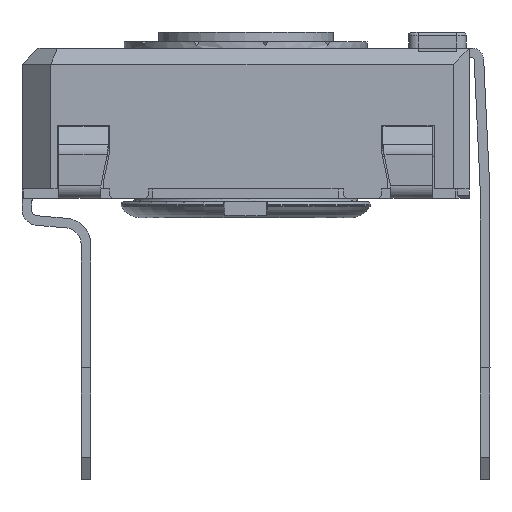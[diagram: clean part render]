
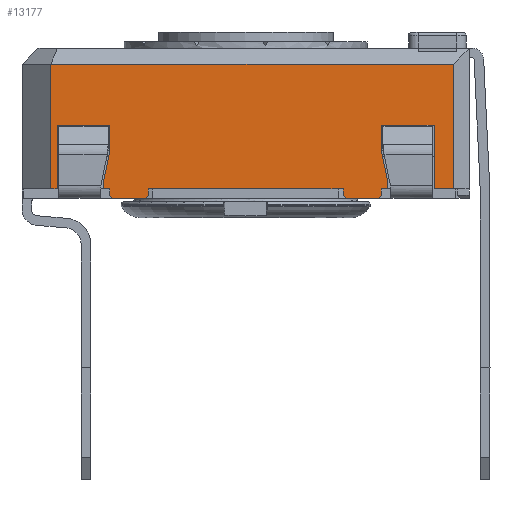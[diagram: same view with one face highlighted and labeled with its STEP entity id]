
A CAD part, left-side view. The second image highlights one B-rep face of the part: STEP entity #13177.
In plain terms, the highlighted planar face has unit normal (-1, 0, 0).
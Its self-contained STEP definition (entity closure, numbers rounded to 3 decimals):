
#453=PLANE('',#14066);
#1060=FACE_OUTER_BOUND('',#1746,.T.);
#1746=EDGE_LOOP('',(#10880,#10881,#10882,#10883,#10884,#10885,#10886,#10887,
#10888,#10889,#10890,#10891,#10892,#10893,#10894,#10895,#10896,#10897,#10898,
#10899,#10900,#10901,#10902,#10903,#10904,#10905,#10906,#10907));
#2746=LINE('',#20171,#4257);
#2752=LINE('',#20183,#4263);
#2755=LINE('',#20190,#4266);
#2760=LINE('',#20199,#4271);
#2780=LINE('',#20240,#4291);
#2794=LINE('',#20266,#4305);
#2798=LINE('',#20273,#4309);
#2813=LINE('',#20302,#4324);
#2816=LINE('',#20308,#4327);
#2821=LINE('',#20318,#4332);
#2824=LINE('',#20324,#4335);
#2827=LINE('',#20330,#4338);
#2845=LINE('',#20365,#4356);
#2857=LINE('',#20387,#4368);
#2860=LINE('',#20393,#4371);
#2897=LINE('',#20527,#4408);
#2900=LINE('',#20533,#4411);
#2926=LINE('',#20580,#4437);
#2931=LINE('',#20590,#4442);
#2933=LINE('',#20593,#4444);
#3058=LINE('',#20904,#4569);
#3060=LINE('',#20909,#4571);
#3063=LINE('',#20913,#4574);
#3065=LINE('',#20917,#4576);
#3068=LINE('',#20925,#4579);
#3069=LINE('',#20927,#4580);
#3070=LINE('',#20928,#4581);
#3071=LINE('',#20929,#4582);
#4257=VECTOR('',#16149,10.);
#4263=VECTOR('',#16157,10.);
#4266=VECTOR('',#16162,10.);
#4271=VECTOR('',#16169,10.);
#4291=VECTOR('',#16203,10.);
#4305=VECTOR('',#16217,10.);
#4309=VECTOR('',#16221,10.);
#4324=VECTOR('',#16248,10.);
#4327=VECTOR('',#16253,10.);
#4332=VECTOR('',#16260,10.);
#4335=VECTOR('',#16265,10.);
#4338=VECTOR('',#16270,10.);
#4356=VECTOR('',#16290,10.);
#4368=VECTOR('',#16304,10.);
#4371=VECTOR('',#16309,10.);
#4408=VECTOR('',#16390,10.);
#4411=VECTOR('',#16395,10.);
#4437=VECTOR('',#16423,10.);
#4442=VECTOR('',#16430,10.);
#4444=VECTOR('',#16434,10.);
#4569=VECTOR('',#16725,10.);
#4571=VECTOR('',#16729,10.);
#4574=VECTOR('',#16734,10.);
#4576=VECTOR('',#16740,10.);
#4579=VECTOR('',#16751,10.);
#4580=VECTOR('',#16752,10.);
#4581=VECTOR('',#16753,10.);
#4582=VECTOR('',#16754,10.);
#6012=VERTEX_POINT('',#20168);
#6013=VERTEX_POINT('',#20170);
#6017=VERTEX_POINT('',#20180);
#6019=VERTEX_POINT('',#20186);
#6021=VERTEX_POINT('',#20189);
#6024=VERTEX_POINT('',#20197);
#6049=VERTEX_POINT('',#20263);
#6050=VERTEX_POINT('',#20265);
#6052=VERTEX_POINT('',#20270);
#6053=VERTEX_POINT('',#20272);
#6060=VERTEX_POINT('',#20299);
#6062=VERTEX_POINT('',#20305);
#6066=VERTEX_POINT('',#20315);
#6068=VERTEX_POINT('',#20321);
#6071=VERTEX_POINT('',#20328);
#6087=VERTEX_POINT('',#20363);
#6096=VERTEX_POINT('',#20385);
#6098=VERTEX_POINT('',#20391);
#6125=VERTEX_POINT('',#20525);
#6126=VERTEX_POINT('',#20530);
#6146=VERTEX_POINT('',#20577);
#6150=VERTEX_POINT('',#20587);
#6224=VERTEX_POINT('',#20901);
#6225=VERTEX_POINT('',#20903);
#6226=VERTEX_POINT('',#20907);
#6227=VERTEX_POINT('',#20908);
#6228=VERTEX_POINT('',#20924);
#6229=VERTEX_POINT('',#20926);
#7548=EDGE_CURVE('',#6013,#6012,#2746,.T.);
#7554=EDGE_CURVE('',#6012,#6017,#2752,.T.);
#7557=EDGE_CURVE('',#6021,#6019,#2755,.T.);
#7562=EDGE_CURVE('',#6024,#6019,#2760,.T.);
#7582=EDGE_CURVE('',#6017,#6021,#2780,.T.);
#7596=EDGE_CURVE('',#6050,#6049,#2794,.T.);
#7600=EDGE_CURVE('',#6053,#6052,#2798,.T.);
#7616=EDGE_CURVE('',#6049,#6060,#2813,.T.);
#7619=EDGE_CURVE('',#6060,#6062,#2816,.T.);
#7624=EDGE_CURVE('',#6062,#6066,#2821,.T.);
#7627=EDGE_CURVE('',#6066,#6068,#2824,.T.);
#7630=EDGE_CURVE('',#6068,#6071,#2827,.T.);
#7648=EDGE_CURVE('',#6071,#6087,#2845,.T.);
#7660=EDGE_CURVE('',#6096,#6087,#2857,.T.);
#7663=EDGE_CURVE('',#6098,#6096,#2860,.T.);
#7712=EDGE_CURVE('',#6125,#6098,#2897,.T.);
#7715=EDGE_CURVE('',#6125,#6126,#2900,.T.);
#7741=EDGE_CURVE('',#6126,#6146,#2926,.T.);
#7746=EDGE_CURVE('',#6146,#6150,#2931,.T.);
#7748=EDGE_CURVE('',#6150,#6013,#2933,.T.);
#7889=EDGE_CURVE('',#6224,#6225,#3058,.T.);
#7891=EDGE_CURVE('',#6226,#6227,#3060,.T.);
#7894=EDGE_CURVE('',#6050,#6224,#3063,.T.);
#7896=EDGE_CURVE('',#6052,#6227,#3065,.T.);
#7899=EDGE_CURVE('',#6024,#6228,#3068,.T.);
#7900=EDGE_CURVE('',#6229,#6228,#3069,.T.);
#7901=EDGE_CURVE('',#6053,#6229,#3070,.T.);
#7902=EDGE_CURVE('',#6226,#6225,#3071,.T.);
#10880=ORIENTED_EDGE('',*,*,#7554,.T.);
#10881=ORIENTED_EDGE('',*,*,#7582,.T.);
#10882=ORIENTED_EDGE('',*,*,#7557,.T.);
#10883=ORIENTED_EDGE('',*,*,#7562,.F.);
#10884=ORIENTED_EDGE('',*,*,#7899,.T.);
#10885=ORIENTED_EDGE('',*,*,#7900,.F.);
#10886=ORIENTED_EDGE('',*,*,#7901,.F.);
#10887=ORIENTED_EDGE('',*,*,#7600,.T.);
#10888=ORIENTED_EDGE('',*,*,#7896,.T.);
#10889=ORIENTED_EDGE('',*,*,#7891,.F.);
#10890=ORIENTED_EDGE('',*,*,#7902,.T.);
#10891=ORIENTED_EDGE('',*,*,#7889,.F.);
#10892=ORIENTED_EDGE('',*,*,#7894,.F.);
#10893=ORIENTED_EDGE('',*,*,#7596,.T.);
#10894=ORIENTED_EDGE('',*,*,#7616,.T.);
#10895=ORIENTED_EDGE('',*,*,#7619,.T.);
#10896=ORIENTED_EDGE('',*,*,#7624,.T.);
#10897=ORIENTED_EDGE('',*,*,#7627,.T.);
#10898=ORIENTED_EDGE('',*,*,#7630,.T.);
#10899=ORIENTED_EDGE('',*,*,#7648,.T.);
#10900=ORIENTED_EDGE('',*,*,#7660,.F.);
#10901=ORIENTED_EDGE('',*,*,#7663,.F.);
#10902=ORIENTED_EDGE('',*,*,#7712,.F.);
#10903=ORIENTED_EDGE('',*,*,#7715,.T.);
#10904=ORIENTED_EDGE('',*,*,#7741,.T.);
#10905=ORIENTED_EDGE('',*,*,#7746,.T.);
#10906=ORIENTED_EDGE('',*,*,#7748,.T.);
#10907=ORIENTED_EDGE('',*,*,#7548,.T.);
#13177=ADVANCED_FACE('',(#1060),#453,.T.);
#14066=AXIS2_PLACEMENT_3D('',#20923,#16749,#16750);
#16149=DIRECTION('',(0.,0.208,-0.978));
#16157=DIRECTION('',(0.,0.,-1.));
#16162=DIRECTION('',(0.,0.,-1.));
#16169=DIRECTION('',(0.,0.707,0.707));
#16203=DIRECTION('',(0.,-1.,0.));
#16217=DIRECTION('',(0.,-1.,0.));
#16221=DIRECTION('',(0.,-1.,0.));
#16248=DIRECTION('',(0.,0.,1.));
#16253=DIRECTION('',(0.,0.208,0.978));
#16260=DIRECTION('',(0.,0.,1.));
#16265=DIRECTION('',(0.,-1.,0.));
#16270=DIRECTION('',(0.,0.,-1.));
#16290=DIRECTION('',(0.,-1.,0.));
#16304=DIRECTION('',(0.,0.,-1.));
#16309=DIRECTION('',(0.,-1.,0.));
#16390=DIRECTION('',(0.,0.,1.));
#16395=DIRECTION('',(0.,-1.,0.));
#16423=DIRECTION('',(0.,0.,1.));
#16430=DIRECTION('',(0.,-1.,0.));
#16434=DIRECTION('',(0.,0.,-1.));
#16725=DIRECTION('',(0.,0.707,-0.707));
#16729=DIRECTION('',(0.,0.707,0.707));
#16734=DIRECTION('',(0.,0.,-1.));
#16740=DIRECTION('',(0.,0.,-1.));
#16749=DIRECTION('center_axis',(-1.,0.,0.));
#16750=DIRECTION('ref_axis',(0.,0.,1.));
#16751=DIRECTION('',(0.,-1.,0.));
#16752=DIRECTION('',(0.,0.707,-0.707));
#16753=DIRECTION('',(0.,0.,-1.));
#16754=DIRECTION('',(0.,-1.,0.));
#20168=CARTESIAN_POINT('',(-14.467,1.552,0.235));
#20170=CARTESIAN_POINT('',(-14.467,1.352,1.176));
#20171=CARTESIAN_POINT('',(-14.467,1.228,1.757));
#20180=CARTESIAN_POINT('',(-14.467,1.552,0.));
#20183=CARTESIAN_POINT('',(-14.467,1.552,0.));
#20186=CARTESIAN_POINT('',(-14.467,1.352,-0.2));
#20189=CARTESIAN_POINT('',(-14.467,1.352,0.));
#20190=CARTESIAN_POINT('',(-14.467,1.352,0.));
#20197=CARTESIAN_POINT('',(-14.467,1.252,-0.3));
#20199=CARTESIAN_POINT('',(-14.467,-1.436,-2.988));
#20240=CARTESIAN_POINT('',(-14.467,4.102,0.));
#20263=CARTESIAN_POINT('',(-14.467,-7.348,0.));
#20265=CARTESIAN_POINT('',(-14.467,-7.148,0.));
#20266=CARTESIAN_POINT('',(-14.467,4.102,0.));
#20270=CARTESIAN_POINT('',(-14.467,-5.948,0.));
#20272=CARTESIAN_POINT('',(-14.467,0.152,0.));
#20273=CARTESIAN_POINT('',(-14.467,4.102,0.));
#20299=CARTESIAN_POINT('',(-14.467,-7.348,0.235));
#20302=CARTESIAN_POINT('',(-14.467,-7.348,0.118));
#20305=CARTESIAN_POINT('',(-14.467,-7.148,1.176));
#20308=CARTESIAN_POINT('',(-14.467,-7.453,-0.254));
#20315=CARTESIAN_POINT('',(-14.467,-7.148,2.));
#20318=CARTESIAN_POINT('',(-14.467,-7.148,0.588));
#20321=CARTESIAN_POINT('',(-14.467,-8.798,2.));
#20324=CARTESIAN_POINT('',(-14.467,-8.523,2.));
#20328=CARTESIAN_POINT('',(-14.467,-8.798,0.));
#20330=CARTESIAN_POINT('',(-14.467,-8.798,0.));
#20363=CARTESIAN_POINT('',(-14.467,-9.398,0.));
#20365=CARTESIAN_POINT('',(-14.467,-9.595,0.));
#20385=CARTESIAN_POINT('',(-14.467,-9.398,3.9));
#20387=CARTESIAN_POINT('',(-14.467,-9.398,0.));
#20391=CARTESIAN_POINT('',(-14.467,3.202,3.9));
#20393=CARTESIAN_POINT('',(-14.467,-6.398,3.9));
#20525=CARTESIAN_POINT('',(-14.467,3.202,0.));
#20527=CARTESIAN_POINT('',(-14.467,3.202,0.));
#20530=CARTESIAN_POINT('',(-14.467,3.002,0.));
#20533=CARTESIAN_POINT('',(-14.467,-2.985,0.));
#20577=CARTESIAN_POINT('',(-14.467,3.002,2.));
#20580=CARTESIAN_POINT('',(-14.467,3.002,0.));
#20587=CARTESIAN_POINT('',(-14.467,1.352,2.));
#20590=CARTESIAN_POINT('',(-14.467,-3.448,2.));
#20593=CARTESIAN_POINT('',(-14.467,1.352,1.));
#20901=CARTESIAN_POINT('',(-14.467,-7.148,-0.2));
#20903=CARTESIAN_POINT('',(-14.467,-7.048,-0.3));
#20904=CARTESIAN_POINT('',(-14.467,-7.861,0.513));
#20907=CARTESIAN_POINT('',(-14.467,-6.048,-0.3));
#20908=CARTESIAN_POINT('',(-14.467,-5.948,-0.2));
#20909=CARTESIAN_POINT('',(-14.467,-6.911,-1.163));
#20913=CARTESIAN_POINT('',(-14.467,-7.148,0.));
#20917=CARTESIAN_POINT('',(-14.467,-5.948,0.));
#20923=CARTESIAN_POINT('Origin',(-14.467,-9.898,0.));
#20924=CARTESIAN_POINT('',(-14.467,0.252,-0.3));
#20925=CARTESIAN_POINT('',(-14.467,0.152,-0.3));
#20926=CARTESIAN_POINT('',(-14.467,0.152,-0.2));
#20927=CARTESIAN_POINT('',(-14.467,-2.386,2.338));
#20928=CARTESIAN_POINT('',(-14.467,0.152,0.));
#20929=CARTESIAN_POINT('',(-14.467,-7.148,-0.3));
